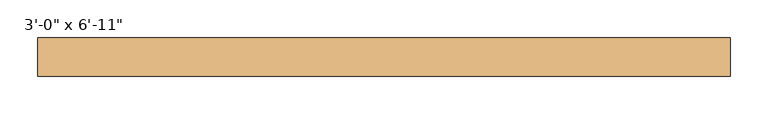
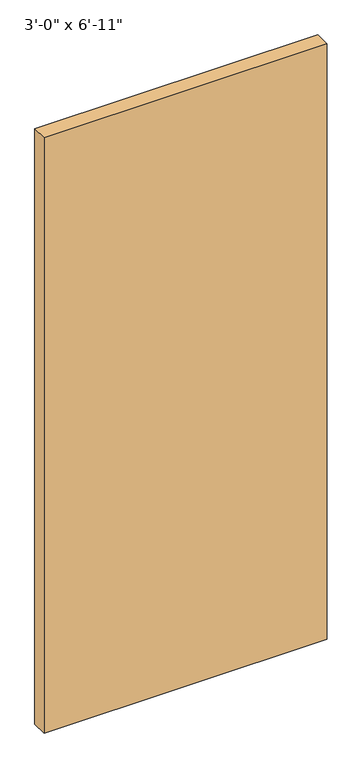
"""IFC4 building model written with IfcOpenShell, lengths in millimetres: door geometry."""

from ifc_helpers import new_model, si_unit, origin, origin_with_axes, place, context, project, spatial, polyline, outline, extrude, source, transform, mapped, element, save


def door_848fc89d(model_context):
    return source(origin(), model_context, "Body", "SweptSolid", [
        extrude(outline(polyline([(457.2, -6.15), (457.2, -57.15), (-457.2, -57.15), (-457.2, -6.15), (457.2, -6.15)])), origin_with_axes(), (0.0, 0.0, 1.0), 2032.0),
    ])


if __name__ == "__main__":
    model = new_model("IFC4")
    model_context = context("Model", 3, world=origin())
    ifc_project = project(units=[si_unit("LENGTHUNIT", "METRE", prefix="MILLI")], contexts=[model_context])
    site = spatial("IfcSite", under=ifc_project)
    building = spatial("IfcBuilding", under=site)
    placement = place(None, origin())
    door_shape = door_848fc89d(model_context)
    element("IfcDoor", 1, ObjectType="Planitar - Single Door_Flush Panel : 3'-0\" x 6'-11\"", at=placement, inside=building, context=model_context, shape_type="MappedRepresentation", body=[
        mapped(door_shape, transform((0.0, 0.0, 0.0), x_axis=(1.0, 0.0, 0.0), y_axis=(0.0, 1.0, 0.0), z_axis=(0.0, 0.0, 1.0))),
    ])
    save(model, "model.ifc")
